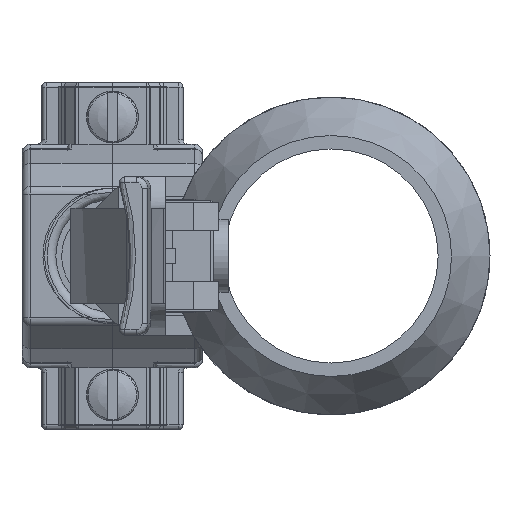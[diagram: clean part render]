
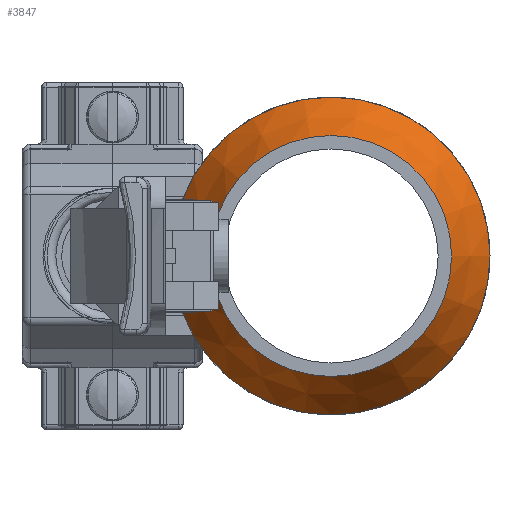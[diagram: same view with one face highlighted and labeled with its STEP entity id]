
A CAD part, left-side view. The second image highlights one B-rep face of the part: STEP entity #3847.
In plain terms, the highlighted conical face has half-angle 30 degrees and reference radius 12.563 mm.
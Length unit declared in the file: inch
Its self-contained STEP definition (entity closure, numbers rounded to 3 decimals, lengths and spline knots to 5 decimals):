
#3763=CARTESIAN_POINT('',(0.23525,-0.5275,-0.19532));
#3764=VERTEX_POINT('',#3763);
#3771=CARTESIAN_POINT('',(0.23525,-0.5275,0.19532));
#3772=VERTEX_POINT('',#3771);
#3773=CARTESIAN_POINT('',(0.23525,0.0,0.0));
#3774=DIRECTION('',(1.0,0.0,0.0));
#3775=DIRECTION('',(0.0,1.0,0.0));
#3776=AXIS2_PLACEMENT_3D('',#3773,#3774,#3775);
#3777=CIRCLE('',#3776,0.5625);
#3778=EDGE_CURVE('',#3764,#3772,#3777,.T.);
#3803=CARTESIAN_POINT('',(0.23525,-0.5275,-0.19532));
#3804=CARTESIAN_POINT('',(0.11778,-0.5275,0.));
#3805=CARTESIAN_POINT('',(0.23525,-0.5275,0.19532));
#3813=(BOUNDED_CURVE()B_SPLINE_CURVE(2,(#3803,#3804,#3805),.UNSPECIFIED.,.F.,.U.)B_SPLINE_CURVE_WITH_KNOTS((3,3),(0.0,1.03892),.UNSPECIFIED.)CURVE()GEOMETRIC_REPRESENTATION_ITEM()RATIONAL_B_SPLINE_CURVE((1.0,1.066,1.0))REPRESENTATION_ITEM(''));
#3814=EDGE_CURVE('',#3764,#3772,#3813,.T.);
#3827=CARTESIAN_POINT('',(0.11763,0.0,0.0));
#3828=DIRECTION('',(1.0,0.0,0.0));
#3829=DIRECTION('',(0.0,1.0,0.0));
#3830=AXIS2_PLACEMENT_3D('',#3827,#3828,#3829);
#3831=CONICAL_SURFACE('',#3830,0.49459,30.);
#3832=CARTESIAN_POINT('',(0.0,0.42668,0.0));
#3833=VERTEX_POINT('',#3832);
#3834=CARTESIAN_POINT('',(0.0,0.0,0.0));
#3835=DIRECTION('',(1.0,0.0,0.0));
#3836=DIRECTION('',(0.0,1.0,0.0));
#3837=AXIS2_PLACEMENT_3D('',#3834,#3835,#3836);
#3838=CIRCLE('',#3837,0.42668);
#3839=EDGE_CURVE('',#3833,#3833,#3838,.T.);
#3840=ORIENTED_EDGE('',*,*,#3839,.T.);
#3841=EDGE_LOOP('',(#3840));
#3842=FACE_OUTER_BOUND('',#3841,.T.);
#3843=ORIENTED_EDGE('',*,*,#3814,.T.);
#3844=ORIENTED_EDGE('',*,*,#3778,.F.);
#3845=EDGE_LOOP('',(#3843,#3844));
#3846=FACE_BOUND('',#3845,.T.);
#3847=ADVANCED_FACE('',(#3842,#3846),#3831,.T.);
